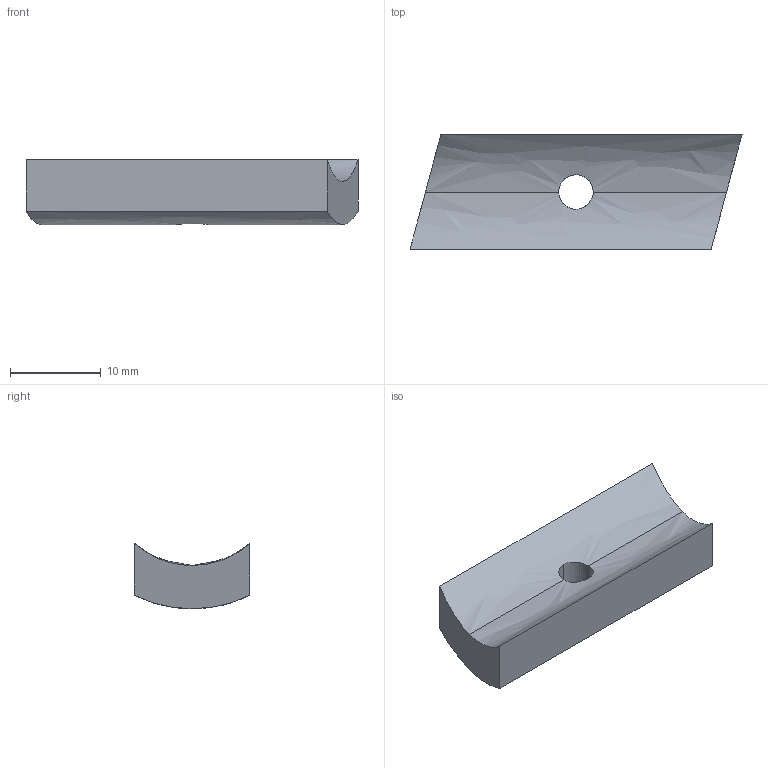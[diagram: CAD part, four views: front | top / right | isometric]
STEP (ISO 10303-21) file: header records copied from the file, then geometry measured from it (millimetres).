
FILE_DESCRIPTION(('TurboCAD Mac Pro'),'Build 980');
FILE_NAME('P3016-1024.stp',' ',(''),(''),'ACIS Interop','IMSI','TurboCAD Mac Pro BY IMSI, INCORPORATED');
FILE_SCHEMA(('automotive_design'));
Length unit declared in the file: inch
Products named in the file (1): 1
Bounding box: 36.51 x 12.7 x 7.2 mm (x, y, z)
Volume: 2066.2 mm3; surface area: 1441 mm2
Topology: 1 solids, 1 shells, 12 faces, 36 edges, 24 vertices
Faces by surface type: bspline 8, plane 4
Entity records: 658 total; most frequent: CARTESIAN_POINT 275, ORIENTED_EDGE 72, EDGE_CURVE 36, DIRECTION 24, VERTEX_POINT 24, B_SPLINE_CURVE_WITH_KNOTS 22, LINE 14, VECTOR 14
